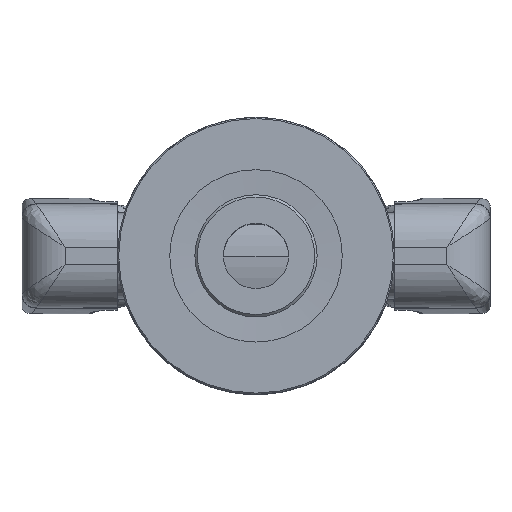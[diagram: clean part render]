
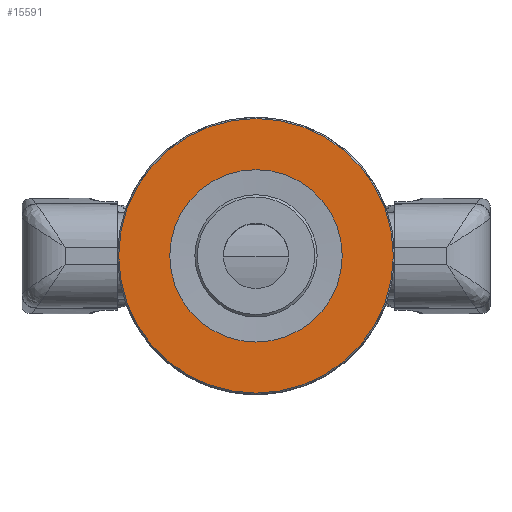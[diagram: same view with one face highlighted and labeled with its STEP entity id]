
A CAD part, top view. The second image highlights one B-rep face of the part: STEP entity #15591.
In plain terms, the highlighted planar face has unit normal (0, 0, 1) as drawn and (0, 0, -1) by its records, which use the part's own axes.
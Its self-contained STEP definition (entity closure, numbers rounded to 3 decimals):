
#158=FACE_BOUND('',#4933,.T.);
#3046=PLANE('',#16733);
#3943=FACE_OUTER_BOUND('',#4932,.T.);
#4932=EDGE_LOOP('',(#14666));
#4933=EDGE_LOOP('',(#14667));
#5344=CIRCLE('',#16730,22.3);
#5346=CIRCLE('',#16734,14.);
#7671=VERTEX_POINT('',#48583);
#7673=VERTEX_POINT('',#48589);
#10006=EDGE_CURVE('',#7671,#7671,#5344,.T.);
#10008=EDGE_CURVE('',#7673,#7673,#5346,.T.);
#14666=ORIENTED_EDGE('',*,*,#10006,.F.);
#14667=ORIENTED_EDGE('',*,*,#10008,.F.);
#15591=ADVANCED_FACE('',(#3943,#158),#3046,.F.);
#16730=AXIS2_PLACEMENT_3D('',#48584,#19732,#19733);
#16733=AXIS2_PLACEMENT_3D('',#48588,#19738,#19739);
#16734=AXIS2_PLACEMENT_3D('',#48590,#19740,#19741);
#19732=DIRECTION('center_axis',(0.,0.,1.));
#19733=DIRECTION('ref_axis',(-1.,0.,0.));
#19738=DIRECTION('center_axis',(0.,0.,1.));
#19739=DIRECTION('ref_axis',(1.,0.,0.));
#19740=DIRECTION('center_axis',(0.,0.,-1.));
#19741=DIRECTION('ref_axis',(-1.,0.,0.));
#48583=CARTESIAN_POINT('',(22.3,0.,0.));
#48584=CARTESIAN_POINT('Origin',(0.,0.,0.));
#48588=CARTESIAN_POINT('Origin',(0.,0.,0.));
#48589=CARTESIAN_POINT('',(14.,0.,0.));
#48590=CARTESIAN_POINT('Origin',(0.,0.,0.));
